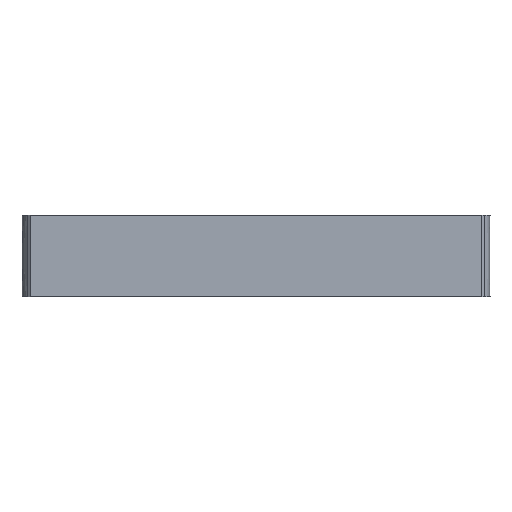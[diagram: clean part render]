
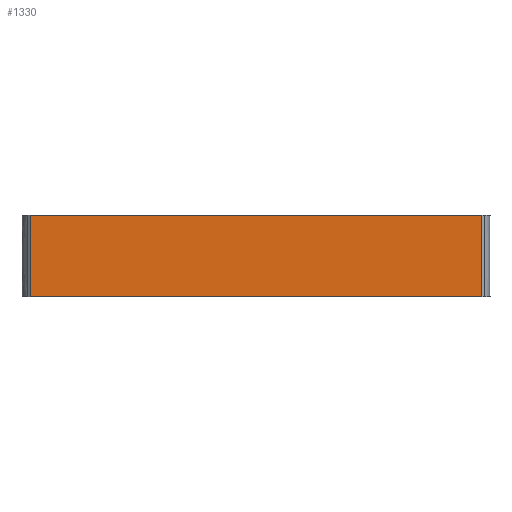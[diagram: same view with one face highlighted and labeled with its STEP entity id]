
A CAD part, front view. The second image highlights one B-rep face of the part: STEP entity #1330.
In plain terms, the highlighted planar face has unit normal (0, -1, 0).
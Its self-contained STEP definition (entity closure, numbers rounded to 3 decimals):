
#238=FACE_OUTER_BOUND('',#307,.T.);
#307=EDGE_LOOP('',(#1173,#1174,#1175,#1176));
#327=LINE('',#1706,#426);
#333=LINE('',#1852,#432);
#406=LINE('',#2980,#505);
#407=LINE('',#2982,#506);
#426=VECTOR('',#1397,85.706);
#432=VECTOR('',#1405,10.);
#505=VECTOR('',#1502,10.);
#506=VECTOR('',#1505,10.);
#551=VERTEX_POINT('',#1703);
#552=VERTEX_POINT('',#1705);
#579=VERTEX_POINT('',#1849);
#640=VERTEX_POINT('',#2978);
#688=EDGE_CURVE('',#551,#552,#327,.T.);
#718=EDGE_CURVE('',#579,#551,#333,.T.);
#840=EDGE_CURVE('',#640,#552,#406,.T.);
#841=EDGE_CURVE('',#640,#579,#407,.F.);
#1173=ORIENTED_EDGE('',*,*,#841,.F.);
#1174=ORIENTED_EDGE('',*,*,#840,.T.);
#1175=ORIENTED_EDGE('',*,*,#688,.F.);
#1176=ORIENTED_EDGE('',*,*,#718,.F.);
#1261=PLANE('',#1364);
#1330=ADVANCED_FACE('',(#238),#1261,.T.);
#1364=AXIS2_PLACEMENT_3D('',#2981,#1503,#1504);
#1397=DIRECTION('',(1.,0.,0.));
#1405=DIRECTION('',(0.,0.,1.));
#1502=DIRECTION('',(0.,0.,1.));
#1503=DIRECTION('center_axis',(0.,-1.,0.));
#1504=DIRECTION('ref_axis',(0.,0.,-1.));
#1505=DIRECTION('',(1.,0.,0.));
#1703=CARTESIAN_POINT('',(5.112,113.05,-195.194));
#1705=CARTESIAN_POINT('',(441.041,113.05,-195.194));
#1706=CARTESIAN_POINT('',(223.077,113.05,-195.194));
#1849=CARTESIAN_POINT('',(5.112,113.05,-273.994));
#1852=CARTESIAN_POINT('',(5.112,113.05,-235.194));
#2978=CARTESIAN_POINT('',(441.041,113.05,-273.994));
#2980=CARTESIAN_POINT('',(441.041,113.05,-235.194));
#2981=CARTESIAN_POINT('Origin',(5.112,113.05,-235.194));
#2982=CARTESIAN_POINT('',(114.125,113.05,-273.994));
